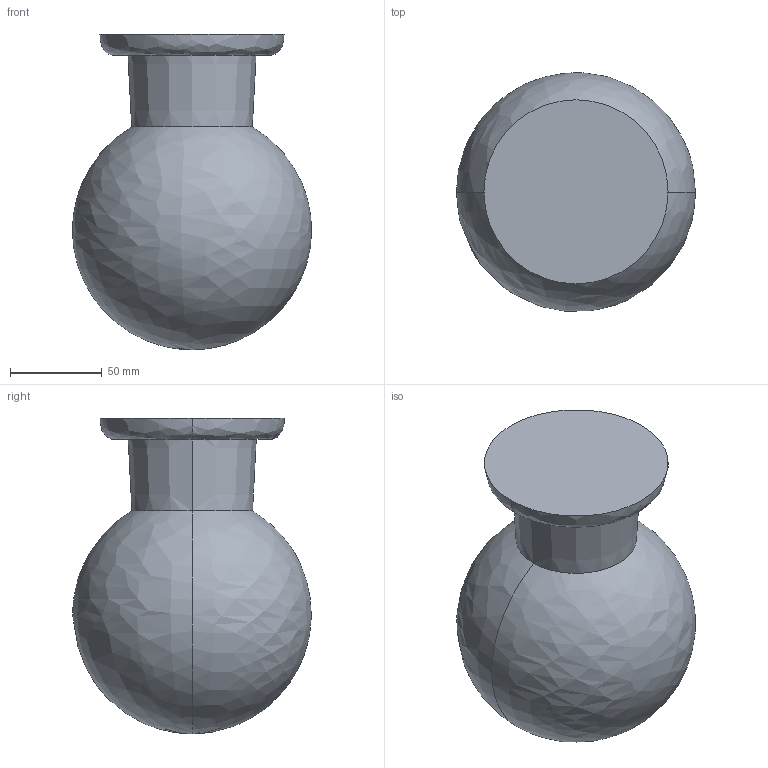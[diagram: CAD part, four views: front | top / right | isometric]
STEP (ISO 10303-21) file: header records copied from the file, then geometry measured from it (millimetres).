
FILE_DESCRIPTION(/* description */ (''),/* implementation_level */ '2;1');
FILE_NAME(/* name */ 'DUMBO13 C&W',/* time_stamp */ '2026-08-05T17:01:39+09:00',/* author */ (''),/* organization */ (''),/* preprocessor_version */ 'ST-DEVELOPER v19.2',/* originating_system */ 'Rhino 8.21',/* authorisation */ '');
FILE_SCHEMA (('CONFIG_CONTROL_DESIGN'));
Length unit declared in the file: millimetre
Products named in the file (1): Document
Bounding box: 129.99 x 129.67 x 171.46 mm (x, y, z)
Volume: 1354734.8 mm3; surface area: 73153.3 mm2
Topology: 1 solids, 1 shells, 7 faces, 14 edges, 7 vertices
Faces by surface type: bspline 6, plane 1
Entity records: 1373 total; most frequent: CARTESIAN_POINT 1184, ORIENTED_EDGE 24, DIRECTION 17, EDGE_CURVE 12, AXIS2_PLACEMENT_3D 9, ADVANCED_FACE 7, FACE_OUTER_BOUND 7, EDGE_LOOP 7
